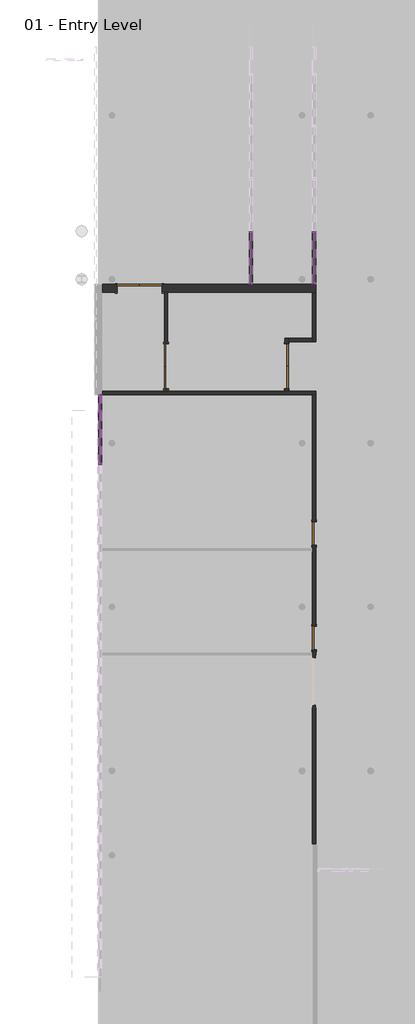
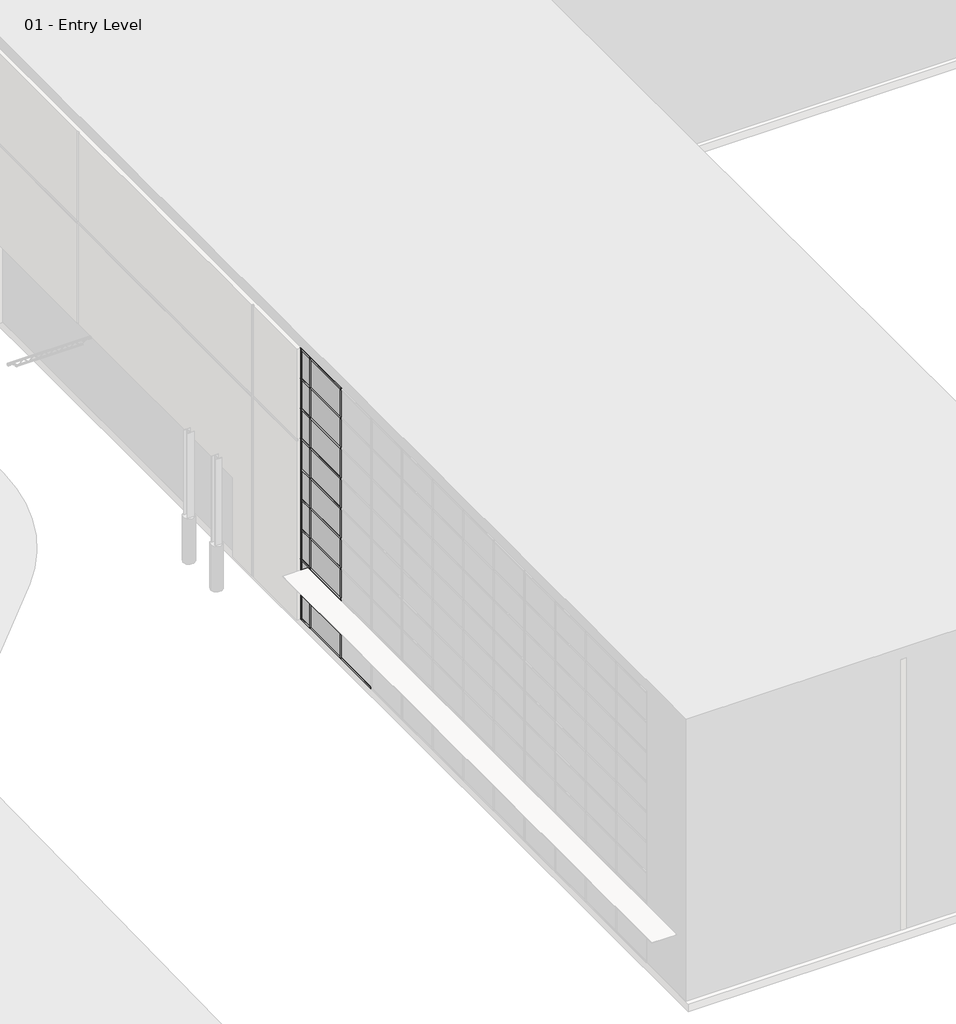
# One storey, part 12 of 34: 74 members, 24 plates, 7 walls, 5 doors.
"""IFC4 building model written with IfcOpenShell, lengths in millimetres."""

from ifc_helpers import new_model, si_unit, frame, origin, place, context, project, spatial, polyline, outline, extrude, faceted_brep, transform, mapped, element, save
from components import door_07ba55ef, door_bdee7c2d, door_a3eb833a, member_2b49869a, member_75074519, member_18e22e2d, member_9193c932, member_391b434c, member_9e90ae50, member_4f18b2ac, member_7a85b04f, member_73c075c8, member_ece69ae7, member_5d67b9fc, member_c327c56d, member_ec52078f, member_cc8ff548, system_panel_glazed_ac179f57, system_panel_glazed_1b9d6098, system_panel_glazed_70da479d, system_panel_glazed_9419342d, system_panel_glazed_b3ddbf8e, system_panel_glazed_346f81d9, system_panel_glazed_d60e1f89, system_panel_solid_b376696c, system_panel_solid_77e8b053, system_panel_solid_89b132cb, system_panel_solid_f04240b3

model = new_model("IFC4")

# Units and contexts
model_context = context("Model", 3, world=origin())
ifc_project = project(units=[si_unit("LENGTHUNIT", "METRE", prefix="MILLI")], contexts=[model_context])

# Site, building, storey
site = spatial("IfcSite", under=ifc_project)
building = spatial("IfcBuilding", under=site)
storey = spatial("IfcBuildingStorey", under=building, Name="01 - Entry Level", Elevation=0.0)

# Doors
placement = place(None, origin())
door_shape = door_07ba55ef(model_context)
element("IfcDoor", 1, ObjectType="Double-Flush : 68\" x 84\"", at=placement, inside=storey, context=model_context, shape_type="MappedRepresentation", body=[
    mapped(door_shape, transform((2718.7207476, 26711.2, 0.0), x_axis=(0.0, 1.0, 0.0), y_axis=(-1.0, 0.0, 0.0), z_axis=(0.0, 0.0, 1.0))),
])
element("IfcDoor", 2, ObjectType="Double-Flush : 68\" x 84\"", at=placement, inside=storey, context=model_context, shape_type="MappedRepresentation", body=[
    mapped(door_shape, transform((7354.2207476, 26711.2, 0.0), x_axis=(0.0, -1.0, 0.0), y_axis=(1.0, 0.0, 0.0), z_axis=(0.0, 0.0, 1.0))),
])
door_2_shape = door_bdee7c2d(model_context)
element("IfcDoor", 3, ObjectType="Double-Flush : 68\" x 84\"", at=placement, inside=storey, context=model_context, shape_type="MappedRepresentation", body=[
    mapped(door_2_shape, transform((1702.7207476, 29709.9875, 0.0), x_axis=(1.0, 0.0, 0.0), y_axis=(0.0, 1.0, 0.0), z_axis=(0.0, 0.0, 1.0))),
])
door_3_shape = door_a3eb833a(model_context)
element("IfcDoor", 4, ObjectType="Single-Flush : 36\" x 84\"", at=placement, inside=storey, context=model_context, shape_type="MappedRepresentation", body=[
    mapped(door_3_shape, transform((8421.0207476, 20285.0, 0.0), x_axis=(0.0, -1.0, 0.0), y_axis=(1.0, 0.0, 0.0), z_axis=(0.0, 0.0, 1.0))),
])
element("IfcDoor", 5, ObjectType="Single-Flush : 36\" x 84\"", at=placement, inside=storey, context=model_context, shape_type="MappedRepresentation", body=[
    mapped(door_3_shape, transform((8421.0207476, 16271.8, 0.0), x_axis=(0.0, -1.0, 0.0), y_axis=(1.0, 0.0, 0.0), z_axis=(0.0, 0.0, 1.0))),
])

# Members
member_shape = member_2b49869a(model_context)
element("IfcMember", 6, ObjectType="Rectangular Mullion : 2.5\" x 5\" rectangular", at=placement, inside=storey, context=model_context, shape_type="MappedRepresentation", body=[
    mapped(member_shape, transform((178.7207476, 24984.0, 9753.6), x_axis=(0.0, -1.0, 0.0), y_axis=(-1.0, 0.0, 0.0), z_axis=(0.0, 0.0, -1.0))),
])
element("IfcMember", 7, ObjectType="Rectangular Mullion : 2.5\" x 5\" rectangular", at=placement, inside=storey, context=model_context, shape_type="MappedRepresentation", body=[
    mapped(member_shape, transform((178.7207476, 22952.0, 9753.6), x_axis=(0.0, -1.0, 0.0), y_axis=(-1.0, 0.0, 0.0), z_axis=(0.0, 0.0, -1.0))),
])
member_2_shape = member_75074519(model_context)
element("IfcMember", 8, ObjectType="Rectangular Mullion : 2.5\" x 5\" rectangular", at=placement, inside=storey, context=model_context, shape_type="MappedRepresentation", body=[
    mapped(member_2_shape, transform((178.7207476, 25631.7, 10972.8), x_axis=(0.0, 1.0, 0.0), y_axis=(-1.0, 0.0, 0.0), z_axis=(0.0, 0.0, 1.0))),
])
member_3_shape = member_18e22e2d(model_context)
element("IfcMember", 9, ObjectType="Rectangular Mullion : 2.5\" x 5\" rectangular", at=placement, inside=storey, context=model_context, shape_type="MappedRepresentation", body=[
    mapped(member_3_shape, transform((5982.6207476, 31895.975, 2438.4), x_axis=(0.0, 1.0, 0.0), y_axis=(1.0, 0.0, 0.0), z_axis=(0.0, 0.0, -1.0))),
])
element("IfcMember", 10, ObjectType="Rectangular Mullion : 2.5\" x 5\" rectangular", at=placement, inside=storey, context=model_context, shape_type="MappedRepresentation", body=[
    mapped(member_3_shape, transform((8421.0207476, 31895.975, 2438.4), x_axis=(0.0, 1.0, 0.0), y_axis=(1.0, 0.0, 0.0), z_axis=(0.0, 0.0, -1.0))),
])
member_4_shape = member_9193c932(model_context)
element("IfcMember", 11, ObjectType="Rectangular Mullion : 2.5\" x 5\" rectangular", at=placement, inside=storey, context=model_context, shape_type="MappedRepresentation", body=[
    mapped(member_4_shape, transform((5982.6207476, 29863.975, 3403.6), x_axis=(0.0, -1.0, 0.0), y_axis=(1.0, 0.0, 0.0), z_axis=(0.0, 0.0, 1.0))),
])
element("IfcMember", 12, ObjectType="Rectangular Mullion : 2.5\" x 5\" rectangular", at=placement, inside=storey, context=model_context, shape_type="MappedRepresentation", body=[
    mapped(member_4_shape, transform((8421.0207476, 29863.975, 3403.6), x_axis=(0.0, -1.0, 0.0), y_axis=(1.0, 0.0, 0.0), z_axis=(0.0, 0.0, 1.0))),
])
member_5_shape = member_391b434c(model_context)
element("IfcMember", 13, ObjectType="Rectangular Mullion : 2.5\" x 5\" rectangular", at=placement, inside=storey, context=model_context, shape_type="MappedRepresentation", body=[
    mapped(member_5_shape, transform((178.7207476, 22983.75, 10972.8), x_axis=(0.0, 0.0, 1.0), y_axis=(-1.0, 0.0, 0.0), z_axis=(0.0, -1.0, 0.0))),
])
element("IfcMember", 14, ObjectType="Rectangular Mullion : 2.5\" x 5\" rectangular", at=placement, inside=storey, context=model_context, shape_type="MappedRepresentation", body=[
    mapped(member_5_shape, transform((178.7207476, 24952.25, 0.0), x_axis=(0.0, 0.0, -1.0), y_axis=(-1.0, 0.0, 0.0), z_axis=(0.0, 1.0, 0.0))),
])
element("IfcMember", 15, ObjectType="Rectangular Mullion : 2.5\" x 5\" rectangular", at=placement, inside=storey, context=model_context, shape_type="MappedRepresentation", body=[
    mapped(member_5_shape, transform((178.7207476, 22920.25, 0.0), x_axis=(0.0, 0.0, -1.0), y_axis=(-1.0, 0.0, 0.0), z_axis=(0.0, 1.0, 0.0))),
])
member_6_shape = member_9e90ae50(model_context)
element("IfcMember", 16, ObjectType="Rectangular Mullion : 2.5\" x 5\" rectangular", at=placement, inside=storey, context=model_context, shape_type="MappedRepresentation", body=[
    mapped(member_6_shape, transform((178.7207476, 22983.75, 1219.2), x_axis=(0.0, 0.0, 1.0), y_axis=(-1.0, 0.0, 0.0), z_axis=(0.0, -1.0, 0.0))),
])
element("IfcMember", 17, ObjectType="Rectangular Mullion : 2.5\" x 5\" rectangular", at=placement, inside=storey, context=model_context, shape_type="MappedRepresentation", body=[
    mapped(member_6_shape, transform((178.7207476, 22983.75, 2438.4), x_axis=(0.0, 0.0, 1.0), y_axis=(-1.0, 0.0, 0.0), z_axis=(0.0, -1.0, 0.0))),
])
element("IfcMember", 18, ObjectType="Rectangular Mullion : 2.5\" x 5\" rectangular", at=placement, inside=storey, context=model_context, shape_type="MappedRepresentation", body=[
    mapped(member_6_shape, transform((178.7207476, 22983.75, 3657.6), x_axis=(0.0, 0.0, 1.0), y_axis=(-1.0, 0.0, 0.0), z_axis=(0.0, -1.0, 0.0))),
])
element("IfcMember", 19, ObjectType="Rectangular Mullion : 2.5\" x 5\" rectangular", at=placement, inside=storey, context=model_context, shape_type="MappedRepresentation", body=[
    mapped(member_6_shape, transform((178.7207476, 22983.75, 4876.8), x_axis=(0.0, 0.0, 1.0), y_axis=(-1.0, 0.0, 0.0), z_axis=(0.0, -1.0, 0.0))),
])
element("IfcMember", 20, ObjectType="Rectangular Mullion : 2.5\" x 5\" rectangular", at=placement, inside=storey, context=model_context, shape_type="MappedRepresentation", body=[
    mapped(member_6_shape, transform((178.7207476, 22983.75, 6096.0), x_axis=(0.0, 0.0, 1.0), y_axis=(-1.0, 0.0, 0.0), z_axis=(0.0, -1.0, 0.0))),
])
element("IfcMember", 21, ObjectType="Rectangular Mullion : 2.5\" x 5\" rectangular", at=placement, inside=storey, context=model_context, shape_type="MappedRepresentation", body=[
    mapped(member_6_shape, transform((178.7207476, 22983.75, 7315.2), x_axis=(0.0, 0.0, 1.0), y_axis=(-1.0, 0.0, 0.0), z_axis=(0.0, -1.0, 0.0))),
])
element("IfcMember", 22, ObjectType="Rectangular Mullion : 2.5\" x 5\" rectangular", at=placement, inside=storey, context=model_context, shape_type="MappedRepresentation", body=[
    mapped(member_6_shape, transform((178.7207476, 22983.75, 8534.4), x_axis=(0.0, 0.0, 1.0), y_axis=(-1.0, 0.0, 0.0), z_axis=(0.0, -1.0, 0.0))),
])
element("IfcMember", 23, ObjectType="Rectangular Mullion : 2.5\" x 5\" rectangular", at=placement, inside=storey, context=model_context, shape_type="MappedRepresentation", body=[
    mapped(member_6_shape, transform((178.7207476, 22983.75, 9753.6), x_axis=(0.0, 0.0, 1.0), y_axis=(-1.0, 0.0, 0.0), z_axis=(0.0, -1.0, 0.0))),
])
element("IfcMember", 24, ObjectType="Rectangular Mullion : 2.5\" x 5\" rectangular", at=placement, inside=storey, context=model_context, shape_type="MappedRepresentation", body=[
    mapped(member_shape, transform((178.7207476, 24984.0, 0.0), x_axis=(0.0, -1.0, 0.0), y_axis=(-1.0, 0.0, 0.0), z_axis=(0.0, 0.0, -1.0))),
])
element("IfcMember", 25, ObjectType="Rectangular Mullion : 2.5\" x 5\" rectangular", at=placement, inside=storey, context=model_context, shape_type="MappedRepresentation", body=[
    mapped(member_shape, transform((178.7207476, 22952.0, 0.0), x_axis=(0.0, -1.0, 0.0), y_axis=(-1.0, 0.0, 0.0), z_axis=(0.0, 0.0, -1.0))),
])
element("IfcMember", 26, ObjectType="Rectangular Mullion : 2.5\" x 5\" rectangular", at=placement, inside=storey, context=model_context, shape_type="MappedRepresentation", body=[
    mapped(member_shape, transform((178.7207476, 24984.0, 1219.2), x_axis=(0.0, -1.0, 0.0), y_axis=(-1.0, 0.0, 0.0), z_axis=(0.0, 0.0, -1.0))),
])
element("IfcMember", 27, ObjectType="Rectangular Mullion : 2.5\" x 5\" rectangular", at=placement, inside=storey, context=model_context, shape_type="MappedRepresentation", body=[
    mapped(member_shape, transform((178.7207476, 22952.0, 1219.2), x_axis=(0.0, -1.0, 0.0), y_axis=(-1.0, 0.0, 0.0), z_axis=(0.0, 0.0, -1.0))),
])
element("IfcMember", 28, ObjectType="Rectangular Mullion : 2.5\" x 5\" rectangular", at=placement, inside=storey, context=model_context, shape_type="MappedRepresentation", body=[
    mapped(member_shape, transform((178.7207476, 24984.0, 2438.4), x_axis=(0.0, -1.0, 0.0), y_axis=(-1.0, 0.0, 0.0), z_axis=(0.0, 0.0, -1.0))),
])
element("IfcMember", 29, ObjectType="Rectangular Mullion : 2.5\" x 5\" rectangular", at=placement, inside=storey, context=model_context, shape_type="MappedRepresentation", body=[
    mapped(member_shape, transform((178.7207476, 22952.0, 2438.4), x_axis=(0.0, -1.0, 0.0), y_axis=(-1.0, 0.0, 0.0), z_axis=(0.0, 0.0, -1.0))),
])
element("IfcMember", 30, ObjectType="Rectangular Mullion : 2.5\" x 5\" rectangular", at=placement, inside=storey, context=model_context, shape_type="MappedRepresentation", body=[
    mapped(member_shape, transform((178.7207476, 24984.0, 3657.6), x_axis=(0.0, -1.0, 0.0), y_axis=(-1.0, 0.0, 0.0), z_axis=(0.0, 0.0, -1.0))),
])
element("IfcMember", 31, ObjectType="Rectangular Mullion : 2.5\" x 5\" rectangular", at=placement, inside=storey, context=model_context, shape_type="MappedRepresentation", body=[
    mapped(member_shape, transform((178.7207476, 22952.0, 3657.6), x_axis=(0.0, -1.0, 0.0), y_axis=(-1.0, 0.0, 0.0), z_axis=(0.0, 0.0, -1.0))),
])
element("IfcMember", 32, ObjectType="Rectangular Mullion : 2.5\" x 5\" rectangular", at=placement, inside=storey, context=model_context, shape_type="MappedRepresentation", body=[
    mapped(member_shape, transform((178.7207476, 24984.0, 4876.8), x_axis=(0.0, -1.0, 0.0), y_axis=(-1.0, 0.0, 0.0), z_axis=(0.0, 0.0, -1.0))),
])
element("IfcMember", 33, ObjectType="Rectangular Mullion : 2.5\" x 5\" rectangular", at=placement, inside=storey, context=model_context, shape_type="MappedRepresentation", body=[
    mapped(member_shape, transform((178.7207476, 22952.0, 4876.8), x_axis=(0.0, -1.0, 0.0), y_axis=(-1.0, 0.0, 0.0), z_axis=(0.0, 0.0, -1.0))),
])
element("IfcMember", 34, ObjectType="Rectangular Mullion : 2.5\" x 5\" rectangular", at=placement, inside=storey, context=model_context, shape_type="MappedRepresentation", body=[
    mapped(member_shape, transform((178.7207476, 24984.0, 6096.0), x_axis=(0.0, -1.0, 0.0), y_axis=(-1.0, 0.0, 0.0), z_axis=(0.0, 0.0, -1.0))),
])
element("IfcMember", 35, ObjectType="Rectangular Mullion : 2.5\" x 5\" rectangular", at=placement, inside=storey, context=model_context, shape_type="MappedRepresentation", body=[
    mapped(member_shape, transform((178.7207476, 22952.0, 6096.0), x_axis=(0.0, -1.0, 0.0), y_axis=(-1.0, 0.0, 0.0), z_axis=(0.0, 0.0, -1.0))),
])
element("IfcMember", 36, ObjectType="Rectangular Mullion : 2.5\" x 5\" rectangular", at=placement, inside=storey, context=model_context, shape_type="MappedRepresentation", body=[
    mapped(member_shape, transform((178.7207476, 24984.0, 7315.2), x_axis=(0.0, -1.0, 0.0), y_axis=(-1.0, 0.0, 0.0), z_axis=(0.0, 0.0, -1.0))),
])
element("IfcMember", 37, ObjectType="Rectangular Mullion : 2.5\" x 5\" rectangular", at=placement, inside=storey, context=model_context, shape_type="MappedRepresentation", body=[
    mapped(member_shape, transform((178.7207476, 22952.0, 7315.2), x_axis=(0.0, -1.0, 0.0), y_axis=(-1.0, 0.0, 0.0), z_axis=(0.0, 0.0, -1.0))),
])
element("IfcMember", 38, ObjectType="Rectangular Mullion : 2.5\" x 5\" rectangular", at=placement, inside=storey, context=model_context, shape_type="MappedRepresentation", body=[
    mapped(member_shape, transform((178.7207476, 24984.0, 8534.4), x_axis=(0.0, -1.0, 0.0), y_axis=(-1.0, 0.0, 0.0), z_axis=(0.0, 0.0, -1.0))),
])
element("IfcMember", 39, ObjectType="Rectangular Mullion : 2.5\" x 5\" rectangular", at=placement, inside=storey, context=model_context, shape_type="MappedRepresentation", body=[
    mapped(member_shape, transform((178.7207476, 22952.0, 8534.4), x_axis=(0.0, -1.0, 0.0), y_axis=(-1.0, 0.0, 0.0), z_axis=(0.0, 0.0, -1.0))),
])
member_7_shape = member_4f18b2ac(model_context)
element("IfcMember", 40, ObjectType="Rectangular Mullion : 2.5\" x 5\" rectangular", at=placement, inside=storey, context=model_context, shape_type="MappedRepresentation", body=[
    mapped(member_7_shape, transform((5982.6207476, 29927.475, 0.0), x_axis=(0.0, 0.0, -1.0), y_axis=(1.0, 0.0, 0.0), z_axis=(0.0, -1.0, 0.0))),
])
element("IfcMember", 41, ObjectType="Rectangular Mullion : 2.5\" x 5\" rectangular", at=placement, inside=storey, context=model_context, shape_type="MappedRepresentation", body=[
    mapped(member_7_shape, transform((8421.0207476, 29927.475, 0.0), x_axis=(0.0, 0.0, -1.0), y_axis=(1.0, 0.0, 0.0), z_axis=(0.0, -1.0, 0.0))),
])
element("IfcMember", 42, ObjectType="Rectangular Mullion : 2.5\" x 5\" rectangular", at=placement, inside=storey, context=model_context, shape_type="MappedRepresentation", body=[
    mapped(member_7_shape, transform((5982.6207476, 31864.225, 3403.6), x_axis=(0.0, 0.0, 1.0), y_axis=(1.0, 0.0, 0.0), z_axis=(0.0, 1.0, 0.0))),
])
element("IfcMember", 43, ObjectType="Rectangular Mullion : 2.5\" x 5\" rectangular", at=placement, inside=storey, context=model_context, shape_type="MappedRepresentation", body=[
    mapped(member_7_shape, transform((8421.0207476, 31864.225, 3403.6), x_axis=(0.0, 0.0, 1.0), y_axis=(1.0, 0.0, 0.0), z_axis=(0.0, 1.0, 0.0))),
])
element("IfcMember", 44, ObjectType="Rectangular Mullion : 2.5\" x 5\" rectangular", at=placement, inside=storey, context=model_context, shape_type="MappedRepresentation", body=[
    mapped(member_5_shape, transform((5982.6207476, 31927.725, 0.0), x_axis=(0.0, 0.0, -1.0), y_axis=(1.0, 0.0, 0.0), z_axis=(0.0, -1.0, 0.0))),
])
element("IfcMember", 45, ObjectType="Rectangular Mullion : 2.5\" x 5\" rectangular", at=placement, inside=storey, context=model_context, shape_type="MappedRepresentation", body=[
    mapped(member_5_shape, transform((8421.0207476, 31927.725, 0.0), x_axis=(0.0, 0.0, -1.0), y_axis=(1.0, 0.0, 0.0), z_axis=(0.0, -1.0, 0.0))),
])
member_8_shape = member_7a85b04f(model_context)
element("IfcMember", 46, ObjectType="Rectangular Mullion : 2.5\" x 5\" rectangular", at=placement, inside=storey, context=model_context, shape_type="MappedRepresentation", body=[
    mapped(member_8_shape, transform((5982.6207476, 31864.225, 1219.2), x_axis=(0.0, 0.0, 1.0), y_axis=(1.0, 0.0, 0.0), z_axis=(0.0, 1.0, 0.0))),
])
element("IfcMember", 47, ObjectType="Rectangular Mullion : 2.5\" x 5\" rectangular", at=placement, inside=storey, context=model_context, shape_type="MappedRepresentation", body=[
    mapped(member_8_shape, transform((5982.6207476, 31864.225, 2438.4), x_axis=(0.0, 0.0, 1.0), y_axis=(1.0, 0.0, 0.0), z_axis=(0.0, 1.0, 0.0))),
])
element("IfcMember", 48, ObjectType="Rectangular Mullion : 2.5\" x 5\" rectangular", at=placement, inside=storey, context=model_context, shape_type="MappedRepresentation", body=[
    mapped(member_8_shape, transform((8421.0207476, 31864.225, 1219.2), x_axis=(0.0, 0.0, 1.0), y_axis=(1.0, 0.0, 0.0), z_axis=(0.0, 1.0, 0.0))),
])
element("IfcMember", 49, ObjectType="Rectangular Mullion : 2.5\" x 5\" rectangular", at=placement, inside=storey, context=model_context, shape_type="MappedRepresentation", body=[
    mapped(member_8_shape, transform((8421.0207476, 31864.225, 2438.4), x_axis=(0.0, 0.0, 1.0), y_axis=(1.0, 0.0, 0.0), z_axis=(0.0, 1.0, 0.0))),
])
element("IfcMember", 50, ObjectType="Rectangular Mullion : 2.5\" x 5\" rectangular", at=placement, inside=storey, context=model_context, shape_type="MappedRepresentation", body=[
    mapped(member_shape, transform((5982.6207476, 31895.975, 0.0), x_axis=(0.0, 1.0, 0.0), y_axis=(1.0, 0.0, 0.0), z_axis=(0.0, 0.0, -1.0))),
])
element("IfcMember", 51, ObjectType="Rectangular Mullion : 2.5\" x 5\" rectangular", at=placement, inside=storey, context=model_context, shape_type="MappedRepresentation", body=[
    mapped(member_shape, transform((8421.0207476, 31895.975, 0.0), x_axis=(0.0, 1.0, 0.0), y_axis=(1.0, 0.0, 0.0), z_axis=(0.0, 0.0, -1.0))),
])
element("IfcMember", 52, ObjectType="Rectangular Mullion : 2.5\" x 5\" rectangular", at=placement, inside=storey, context=model_context, shape_type="MappedRepresentation", body=[
    mapped(member_2_shape, transform((178.7207476, 25631.7, 1219.2), x_axis=(0.0, 1.0, 0.0), y_axis=(-1.0, 0.0, 0.0), z_axis=(0.0, 0.0, 1.0))),
])
element("IfcMember", 53, ObjectType="Rectangular Mullion : 2.5\" x 5\" rectangular", at=placement, inside=storey, context=model_context, shape_type="MappedRepresentation", body=[
    mapped(member_2_shape, transform((178.7207476, 25631.7, 2438.4), x_axis=(0.0, 1.0, 0.0), y_axis=(-1.0, 0.0, 0.0), z_axis=(0.0, 0.0, 1.0))),
])
element("IfcMember", 54, ObjectType="Rectangular Mullion : 2.5\" x 5\" rectangular", at=placement, inside=storey, context=model_context, shape_type="MappedRepresentation", body=[
    mapped(member_2_shape, transform((178.7207476, 25631.7, 3657.6), x_axis=(0.0, 1.0, 0.0), y_axis=(-1.0, 0.0, 0.0), z_axis=(0.0, 0.0, 1.0))),
])
element("IfcMember", 55, ObjectType="Rectangular Mullion : 2.5\" x 5\" rectangular", at=placement, inside=storey, context=model_context, shape_type="MappedRepresentation", body=[
    mapped(member_2_shape, transform((178.7207476, 25631.7, 4876.8), x_axis=(0.0, 1.0, 0.0), y_axis=(-1.0, 0.0, 0.0), z_axis=(0.0, 0.0, 1.0))),
])
element("IfcMember", 56, ObjectType="Rectangular Mullion : 2.5\" x 5\" rectangular", at=placement, inside=storey, context=model_context, shape_type="MappedRepresentation", body=[
    mapped(member_2_shape, transform((178.7207476, 25631.7, 6096.0), x_axis=(0.0, 1.0, 0.0), y_axis=(-1.0, 0.0, 0.0), z_axis=(0.0, 0.0, 1.0))),
])
element("IfcMember", 57, ObjectType="Rectangular Mullion : 2.5\" x 5\" rectangular", at=placement, inside=storey, context=model_context, shape_type="MappedRepresentation", body=[
    mapped(member_2_shape, transform((178.7207476, 25631.7, 7315.2), x_axis=(0.0, 1.0, 0.0), y_axis=(-1.0, 0.0, 0.0), z_axis=(0.0, 0.0, 1.0))),
])
element("IfcMember", 58, ObjectType="Rectangular Mullion : 2.5\" x 5\" rectangular", at=placement, inside=storey, context=model_context, shape_type="MappedRepresentation", body=[
    mapped(member_2_shape, transform((178.7207476, 25631.7, 8534.4), x_axis=(0.0, 1.0, 0.0), y_axis=(-1.0, 0.0, 0.0), z_axis=(0.0, 0.0, 1.0))),
])
element("IfcMember", 59, ObjectType="Rectangular Mullion : 2.5\" x 5\" rectangular", at=placement, inside=storey, context=model_context, shape_type="MappedRepresentation", body=[
    mapped(member_2_shape, transform((178.7207476, 25631.7, 9753.6), x_axis=(0.0, 1.0, 0.0), y_axis=(-1.0, 0.0, 0.0), z_axis=(0.0, 0.0, 1.0))),
])
element("IfcMember", 60, ObjectType="Rectangular Mullion : 2.5\" x 5\" rectangular", at=placement, inside=storey, context=model_context, shape_type="MappedRepresentation", body=[
    mapped(member_2_shape, transform((5982.6207476, 29863.975, 1219.2), x_axis=(0.0, -1.0, 0.0), y_axis=(1.0, 0.0, 0.0), z_axis=(0.0, 0.0, 1.0))),
])
element("IfcMember", 61, ObjectType="Rectangular Mullion : 2.5\" x 5\" rectangular", at=placement, inside=storey, context=model_context, shape_type="MappedRepresentation", body=[
    mapped(member_2_shape, transform((8421.0207476, 29863.975, 1219.2), x_axis=(0.0, -1.0, 0.0), y_axis=(1.0, 0.0, 0.0), z_axis=(0.0, 0.0, 1.0))),
])
member_9_shape = member_73c075c8(model_context)
element("IfcMember", 62, ObjectType="Rectangular Mullion : 2.5\" x 5\" rectangular", at=placement, inside=storey, context=model_context, shape_type="MappedRepresentation", body=[
    mapped(member_9_shape, transform((178.7207476, 25568.2, 0.0), x_axis=(0.0, 0.0, -1.0), y_axis=(-1.0, 0.0, 0.0), z_axis=(0.0, 1.0, 0.0))),
])
element("IfcMember", 63, ObjectType="Rectangular Mullion : 2.5\" x 5\" rectangular", at=placement, inside=storey, context=model_context, shape_type="MappedRepresentation", body=[
    mapped(member_9_shape, transform((178.7207476, 25015.75, 10972.8), x_axis=(0.0, 0.0, 1.0), y_axis=(-1.0, 0.0, 0.0), z_axis=(0.0, -1.0, 0.0))),
])
member_10_shape = member_ece69ae7(model_context)
element("IfcMember", 64, ObjectType="Rectangular Mullion : 2.5\" x 5\" rectangular", at=placement, inside=storey, context=model_context, shape_type="MappedRepresentation", body=[
    mapped(member_10_shape, transform((178.7207476, 25015.75, 1219.2), x_axis=(0.0, 0.0, 1.0), y_axis=(-1.0, 0.0, 0.0), z_axis=(0.0, -1.0, 0.0))),
])
element("IfcMember", 65, ObjectType="Rectangular Mullion : 2.5\" x 5\" rectangular", at=placement, inside=storey, context=model_context, shape_type="MappedRepresentation", body=[
    mapped(member_10_shape, transform((178.7207476, 25015.75, 2438.4), x_axis=(0.0, 0.0, 1.0), y_axis=(-1.0, 0.0, 0.0), z_axis=(0.0, -1.0, 0.0))),
])
element("IfcMember", 66, ObjectType="Rectangular Mullion : 2.5\" x 5\" rectangular", at=placement, inside=storey, context=model_context, shape_type="MappedRepresentation", body=[
    mapped(member_10_shape, transform((178.7207476, 25015.75, 3657.6), x_axis=(0.0, 0.0, 1.0), y_axis=(-1.0, 0.0, 0.0), z_axis=(0.0, -1.0, 0.0))),
])
element("IfcMember", 67, ObjectType="Rectangular Mullion : 2.5\" x 5\" rectangular", at=placement, inside=storey, context=model_context, shape_type="MappedRepresentation", body=[
    mapped(member_10_shape, transform((178.7207476, 25015.75, 4876.8), x_axis=(0.0, 0.0, 1.0), y_axis=(-1.0, 0.0, 0.0), z_axis=(0.0, -1.0, 0.0))),
])
element("IfcMember", 68, ObjectType="Rectangular Mullion : 2.5\" x 5\" rectangular", at=placement, inside=storey, context=model_context, shape_type="MappedRepresentation", body=[
    mapped(member_10_shape, transform((178.7207476, 25015.75, 6096.0), x_axis=(0.0, 0.0, 1.0), y_axis=(-1.0, 0.0, 0.0), z_axis=(0.0, -1.0, 0.0))),
])
element("IfcMember", 69, ObjectType="Rectangular Mullion : 2.5\" x 5\" rectangular", at=placement, inside=storey, context=model_context, shape_type="MappedRepresentation", body=[
    mapped(member_10_shape, transform((178.7207476, 25015.75, 7315.2), x_axis=(0.0, 0.0, 1.0), y_axis=(-1.0, 0.0, 0.0), z_axis=(0.0, -1.0, 0.0))),
])
element("IfcMember", 70, ObjectType="Rectangular Mullion : 2.5\" x 5\" rectangular", at=placement, inside=storey, context=model_context, shape_type="MappedRepresentation", body=[
    mapped(member_10_shape, transform((178.7207476, 25015.75, 8534.4), x_axis=(0.0, 0.0, 1.0), y_axis=(-1.0, 0.0, 0.0), z_axis=(0.0, -1.0, 0.0))),
])
element("IfcMember", 71, ObjectType="Rectangular Mullion : 2.5\" x 5\" rectangular", at=placement, inside=storey, context=model_context, shape_type="MappedRepresentation", body=[
    mapped(member_10_shape, transform((178.7207476, 25015.75, 9753.6), x_axis=(0.0, 0.0, 1.0), y_axis=(-1.0, 0.0, 0.0), z_axis=(0.0, -1.0, 0.0))),
])
member_11_shape = member_5d67b9fc(model_context)
element("IfcMember", 72, ObjectType="Rectangular Mullion : 2.5\" x 5\" rectangular", at=placement, inside=storey, context=model_context, shape_type="MappedRepresentation", body=[
    mapped(member_11_shape, transform((5982.6207476, 31895.975, 2165.35), x_axis=(0.0, 1.0, 0.0), y_axis=(1.0, 0.0, 0.0), z_axis=(0.0, 0.0, -1.0))),
])
element("IfcMember", 73, ObjectType="Rectangular Mullion : 2.5\" x 5\" rectangular", at=placement, inside=storey, context=model_context, shape_type="MappedRepresentation", body=[
    mapped(member_11_shape, transform((8421.0207476, 31895.975, 2165.35), x_axis=(0.0, 1.0, 0.0), y_axis=(1.0, 0.0, 0.0), z_axis=(0.0, 0.0, -1.0))),
])
member_12_shape = member_c327c56d(model_context)
element("IfcMember", 74, ObjectType="Rectangular Mullion : 2.5\" x 5\" rectangular", at=placement, inside=storey, context=model_context, shape_type="MappedRepresentation", body=[
    mapped(member_12_shape, transform((5982.6207476, 29863.975, 2438.4), x_axis=(0.0, -1.0, 0.0), y_axis=(1.0, 0.0, 0.0), z_axis=(0.0, 0.0, 1.0))),
])
element("IfcMember", 75, ObjectType="Rectangular Mullion : 2.5\" x 5\" rectangular", at=placement, inside=storey, context=model_context, shape_type="MappedRepresentation", body=[
    mapped(member_12_shape, transform((8421.0207476, 29863.975, 2438.4), x_axis=(0.0, -1.0, 0.0), y_axis=(1.0, 0.0, 0.0), z_axis=(0.0, 0.0, 1.0))),
])
member_13_shape = member_ec52078f(model_context)
element("IfcMember", 76, ObjectType="Rectangular Mullion : 2.5\" x 5\" rectangular", at=placement, inside=storey, context=model_context, shape_type="MappedRepresentation", body=[
    mapped(member_13_shape, transform((5982.6207476, 31895.975, 1219.2), x_axis=(0.0, 1.0, 0.0), y_axis=(1.0, 0.0, 0.0), z_axis=(0.0, 0.0, -1.0))),
])
element("IfcMember", 77, ObjectType="Rectangular Mullion : 2.5\" x 5\" rectangular", at=placement, inside=storey, context=model_context, shape_type="MappedRepresentation", body=[
    mapped(member_13_shape, transform((8421.0207476, 31895.975, 1219.2), x_axis=(0.0, 1.0, 0.0), y_axis=(1.0, 0.0, 0.0), z_axis=(0.0, 0.0, -1.0))),
])
member_14_shape = member_cc8ff548(model_context)
element("IfcMember", 78, ObjectType="Rectangular Mullion : 2.5\" x 5\" rectangular", at=placement, inside=storey, context=model_context, shape_type="MappedRepresentation", body=[
    mapped(member_14_shape, transform((5982.6207476, 29863.975, 2165.35), x_axis=(0.0, -1.0, 0.0), y_axis=(1.0, 0.0, 0.0), z_axis=(0.0, 0.0, 1.0))),
])
element("IfcMember", 79, ObjectType="Rectangular Mullion : 2.5\" x 5\" rectangular", at=placement, inside=storey, context=model_context, shape_type="MappedRepresentation", body=[
    mapped(member_14_shape, transform((8421.0207476, 29863.975, 2165.35), x_axis=(0.0, -1.0, 0.0), y_axis=(1.0, 0.0, 0.0), z_axis=(0.0, 0.0, 1.0))),
])

# Plates
system_panel_glazed_shape = system_panel_glazed_ac179f57(model_context)
element("IfcPlate", 80, ObjectType="System Panel : Glazed", at=placement, inside=storey, context=model_context, shape_type="MappedRepresentation", body=[
    mapped(system_panel_glazed_shape, transform((5982.6207476, 30895.85, 63.5), x_axis=(0.0, 1.0, 0.0), y_axis=(-1.0, 0.0, 0.0), z_axis=(0.0, 0.0, 1.0))),
])
element("IfcPlate", 81, ObjectType="System Panel : Glazed", at=placement, inside=storey, context=model_context, shape_type="MappedRepresentation", body=[
    mapped(system_panel_glazed_shape, transform((8421.0207476, 30895.85, 63.5), x_axis=(0.0, 1.0, 0.0), y_axis=(-1.0, 0.0, 0.0), z_axis=(0.0, 0.0, 1.0))),
])
system_panel_glazed_2_shape = system_panel_glazed_1b9d6098(model_context)
element("IfcPlate", 82, ObjectType="System Panel : Glazed", at=placement, inside=storey, context=model_context, shape_type="MappedRepresentation", body=[
    mapped(system_panel_glazed_2_shape, transform((178.7207476, 23968.0, 63.5), x_axis=(0.0, -1.0, 0.0), y_axis=(1.0, 0.0, 0.0), z_axis=(0.0, 0.0, 1.0))),
])
system_panel_glazed_3_shape = system_panel_glazed_70da479d(model_context)
element("IfcPlate", 83, ObjectType="System Panel : Glazed", at=placement, inside=storey, context=model_context, shape_type="MappedRepresentation", body=[
    mapped(system_panel_glazed_3_shape, transform((178.7207476, 23968.0, 1250.95), x_axis=(0.0, -1.0, 0.0), y_axis=(1.0, 0.0, 0.0), z_axis=(0.0, 0.0, 1.0))),
])
element("IfcPlate", 84, ObjectType="System Panel : Glazed", at=placement, inside=storey, context=model_context, shape_type="MappedRepresentation", body=[
    mapped(system_panel_glazed_3_shape, transform((178.7207476, 23968.0, 3689.35), x_axis=(0.0, -1.0, 0.0), y_axis=(1.0, 0.0, 0.0), z_axis=(0.0, 0.0, 1.0))),
])
element("IfcPlate", 85, ObjectType="System Panel : Glazed", at=placement, inside=storey, context=model_context, shape_type="MappedRepresentation", body=[
    mapped(system_panel_glazed_3_shape, transform((178.7207476, 23968.0, 4908.55), x_axis=(0.0, -1.0, 0.0), y_axis=(1.0, 0.0, 0.0), z_axis=(0.0, 0.0, 1.0))),
])
element("IfcPlate", 86, ObjectType="System Panel : Glazed", at=placement, inside=storey, context=model_context, shape_type="MappedRepresentation", body=[
    mapped(system_panel_glazed_3_shape, transform((178.7207476, 23968.0, 7346.95), x_axis=(0.0, -1.0, 0.0), y_axis=(1.0, 0.0, 0.0), z_axis=(0.0, 0.0, 1.0))),
])
element("IfcPlate", 87, ObjectType="System Panel : Glazed", at=placement, inside=storey, context=model_context, shape_type="MappedRepresentation", body=[
    mapped(system_panel_glazed_3_shape, transform((178.7207476, 23968.0, 8566.15), x_axis=(0.0, -1.0, 0.0), y_axis=(1.0, 0.0, 0.0), z_axis=(0.0, 0.0, 1.0))),
])
system_panel_glazed_4_shape = system_panel_glazed_9419342d(model_context)
element("IfcPlate", 88, ObjectType="System Panel : Glazed", at=placement, inside=storey, context=model_context, shape_type="MappedRepresentation", body=[
    mapped(system_panel_glazed_4_shape, transform((5982.6207476, 30895.85, 2470.15), x_axis=(0.0, 1.0, 0.0), y_axis=(-1.0, 0.0, 0.0), z_axis=(0.0, 0.0, 1.0))),
])
element("IfcPlate", 89, ObjectType="System Panel : Glazed", at=placement, inside=storey, context=model_context, shape_type="MappedRepresentation", body=[
    mapped(system_panel_glazed_4_shape, transform((8421.0207476, 30895.85, 2470.15), x_axis=(0.0, 1.0, 0.0), y_axis=(-1.0, 0.0, 0.0), z_axis=(0.0, 0.0, 1.0))),
])
system_panel_glazed_5_shape = system_panel_glazed_b3ddbf8e(model_context)
element("IfcPlate", 90, ObjectType="System Panel : Glazed", at=placement, inside=storey, context=model_context, shape_type="MappedRepresentation", body=[
    mapped(system_panel_glazed_5_shape, transform((178.7207476, 25291.975, 63.5), x_axis=(0.0, -1.0, 0.0), y_axis=(1.0, 0.0, 0.0), z_axis=(0.0, 0.0, 1.0))),
])
system_panel_glazed_6_shape = system_panel_glazed_346f81d9(model_context)
element("IfcPlate", 91, ObjectType="System Panel : Glazed", at=placement, inside=storey, context=model_context, shape_type="MappedRepresentation", body=[
    mapped(system_panel_glazed_6_shape, transform((178.7207476, 25291.975, 1250.95), x_axis=(0.0, -1.0, 0.0), y_axis=(1.0, 0.0, 0.0), z_axis=(0.0, 0.0, 1.0))),
])
element("IfcPlate", 92, ObjectType="System Panel : Glazed", at=placement, inside=storey, context=model_context, shape_type="MappedRepresentation", body=[
    mapped(system_panel_glazed_6_shape, transform((178.7207476, 25291.975, 3689.35), x_axis=(0.0, -1.0, 0.0), y_axis=(1.0, 0.0, 0.0), z_axis=(0.0, 0.0, 1.0))),
])
element("IfcPlate", 93, ObjectType="System Panel : Glazed", at=placement, inside=storey, context=model_context, shape_type="MappedRepresentation", body=[
    mapped(system_panel_glazed_6_shape, transform((178.7207476, 25291.975, 4908.55), x_axis=(0.0, -1.0, 0.0), y_axis=(1.0, 0.0, 0.0), z_axis=(0.0, 0.0, 1.0))),
])
element("IfcPlate", 94, ObjectType="System Panel : Glazed", at=placement, inside=storey, context=model_context, shape_type="MappedRepresentation", body=[
    mapped(system_panel_glazed_6_shape, transform((178.7207476, 25291.975, 7346.95), x_axis=(0.0, -1.0, 0.0), y_axis=(1.0, 0.0, 0.0), z_axis=(0.0, 0.0, 1.0))),
])
element("IfcPlate", 95, ObjectType="System Panel : Glazed", at=placement, inside=storey, context=model_context, shape_type="MappedRepresentation", body=[
    mapped(system_panel_glazed_6_shape, transform((178.7207476, 25291.975, 8566.15), x_axis=(0.0, -1.0, 0.0), y_axis=(1.0, 0.0, 0.0), z_axis=(0.0, 0.0, 1.0))),
])
system_panel_glazed_7_shape = system_panel_glazed_d60e1f89(model_context)
element("IfcPlate", 96, ObjectType="System Panel : Glazed", at=placement, inside=storey, context=model_context, shape_type="MappedRepresentation", body=[
    mapped(system_panel_glazed_7_shape, transform((5982.6207476, 30895.85, 1250.95), x_axis=(0.0, 1.0, 0.0), y_axis=(-1.0, 0.0, 0.0), z_axis=(0.0, 0.0, 1.0))),
])
element("IfcPlate", 97, ObjectType="System Panel : Glazed", at=placement, inside=storey, context=model_context, shape_type="MappedRepresentation", body=[
    mapped(system_panel_glazed_7_shape, transform((8421.0207476, 30895.85, 1250.95), x_axis=(0.0, 1.0, 0.0), y_axis=(-1.0, 0.0, 0.0), z_axis=(0.0, 0.0, 1.0))),
])
system_panel_solid_shape = system_panel_solid_b376696c(model_context)
element("IfcPlate", 98, ObjectType="System Panel : Solid", at=placement, inside=storey, context=model_context, shape_type="MappedRepresentation", body=[
    mapped(system_panel_solid_shape, transform((178.7207476, 23968.0, 9785.35), x_axis=(0.0, -1.0, 0.0), y_axis=(1.0, 0.0, 0.0), z_axis=(0.0, 0.0, 1.0))),
])
system_panel_solid_2_shape = system_panel_solid_77e8b053(model_context)
element("IfcPlate", 99, ObjectType="System Panel : Solid", at=placement, inside=storey, context=model_context, shape_type="MappedRepresentation", body=[
    mapped(system_panel_solid_2_shape, transform((178.7207476, 23968.0, 2470.15), x_axis=(0.0, -1.0, 0.0), y_axis=(1.0, 0.0, 0.0), z_axis=(0.0, 0.0, 1.0))),
])
element("IfcPlate", 100, ObjectType="System Panel : Solid", at=placement, inside=storey, context=model_context, shape_type="MappedRepresentation", body=[
    mapped(system_panel_solid_2_shape, transform((178.7207476, 23968.0, 6127.75), x_axis=(0.0, -1.0, 0.0), y_axis=(1.0, 0.0, 0.0), z_axis=(0.0, 0.0, 1.0))),
])
system_panel_solid_3_shape = system_panel_solid_89b132cb(model_context)
element("IfcPlate", 101, ObjectType="System Panel : Solid", at=placement, inside=storey, context=model_context, shape_type="MappedRepresentation", body=[
    mapped(system_panel_solid_3_shape, transform((178.7207476, 25291.975, 2470.15), x_axis=(0.0, -1.0, 0.0), y_axis=(1.0, 0.0, 0.0), z_axis=(0.0, 0.0, 1.0))),
])
element("IfcPlate", 102, ObjectType="System Panel : Solid", at=placement, inside=storey, context=model_context, shape_type="MappedRepresentation", body=[
    mapped(system_panel_solid_3_shape, transform((178.7207476, 25291.975, 6127.75), x_axis=(0.0, -1.0, 0.0), y_axis=(1.0, 0.0, 0.0), z_axis=(0.0, 0.0, 1.0))),
])
system_panel_solid_4_shape = system_panel_solid_f04240b3(model_context)
element("IfcPlate", 103, ObjectType="System Panel : Solid", at=placement, inside=storey, context=model_context, shape_type="MappedRepresentation", body=[
    mapped(system_panel_solid_4_shape, transform((178.7207476, 25291.975, 9785.35), x_axis=(0.0, -1.0, 0.0), y_axis=(1.0, 0.0, 0.0), z_axis=(0.0, 0.0, 1.0))),
])

# Walls
element("IfcWall", 104, ObjectType="Exterior - EIFS on CMU", at=placement, inside=storey, context=model_context, shape_type="Brep", body=[
    faceted_brep([(280.3207476, 29863.975, 3657.6), (8484.5207476, 29863.975, 3657.6), (8484.5207476, 29863.975, 0.0), (2566.3207476, 29863.975, 0.0), (2566.3207476, 29863.975, 2133.6), (839.1207476, 29863.975, 2133.6), (839.1207476, 29863.975, 0.0), (280.3207476, 29863.975, 0.0), (280.3207476, 29863.975, 3200.4), (8484.5207476, 29556.0, 3657.6), (280.3207476, 29556.0, 3657.6), (280.3207476, 29556.0, 0.0), (839.1207476, 29556.0, 0.0), (839.1207476, 29556.0, 2133.6), (2566.3207476, 29556.0, 2133.6), (2566.3207476, 29556.0, 0.0), (2655.2207476, 29556.0, 0.0), (2782.2207476, 29556.0, 0.0), (8357.5207476, 29556.0, 0.0), (8484.5207476, 29556.0, 0.0), (8484.5207476, 29556.0, 3403.6)], [[[0, 1, 2, 3, 4, 5, 6, 7, 8]], [[9, 10, 11, 12, 13, 14, 15, 16, 17, 18, 19, 20]], [[11, 7, 6, 12]], [[2, 19, 18, 17, 16, 15, 3]], [[1, 0, 10, 9]], [[0, 8, 7, 11, 10]], [[2, 1, 9, 20, 19]], [[14, 4, 3, 15]], [[4, 14, 13, 5]], [[5, 13, 12, 6]]]),
])
element("IfcWall", 105, ObjectType="Generic - 5\"", at=placement, inside=storey, context=model_context, shape_type="Brep", body=[
    faceted_brep([(8484.5207476, 25758.7, 0.0), (7417.7207476, 25758.7, 0.0), (7290.7207476, 25758.7, 0.0), (2782.2207476, 25758.7, 0.0), (2655.2207476, 25758.7, 0.0), (280.3207476, 25758.7, 0.0), (280.3207476, 25758.7, 3403.6), (2655.2207476, 25758.7, 3403.6), (2782.2207476, 25758.7, 3403.6), (8484.5207476, 25758.7, 3403.6), (8484.5207476, 25631.7, 0.0), (8484.5207476, 25631.7, 3403.6), (8357.5207476, 25631.7, 3403.6), (280.3207476, 25631.7, 3403.6), (280.3207476, 25631.7, 0.0), (8357.5207476, 25631.7, 0.0)], [[[0, 1, 2, 3, 4, 5, 6, 7, 8, 9]], [[10, 11, 12, 13, 14, 15]], [[5, 4, 3, 2, 1, 0, 10, 15, 14]], [[0, 9, 11, 10]], [[6, 5, 14, 13]], [[9, 8, 7, 6, 13, 12, 11]]]),
])
element("IfcWall", 106, ObjectType="Generic - 5\"", at=placement, inside=storey, context=model_context, shape_type="SweptSolid", body=[
    extrude(outline(polyline([(29556.0, 3403.6), (29556.0, 0.0), (27574.8, 0.0), (27574.8, 2133.6), (25847.6, 2133.6), (25847.6, 0.0), (25758.7, 0.0), (25758.7, 3403.6), (29556.0, 3403.6)])), frame((2655.2207476, 0.0, 0.0), z_axis=(1.0, 0.0, 0.0), x_axis=(0.0, 1.0, 0.0)), (0.0, 0.0, 1.0), 127.0),
])
element("IfcWall", 107, ObjectType="Generic - 5\"", at=placement, inside=storey, context=model_context, shape_type="Brep", body=[
    faceted_brep([(7417.7207476, 27790.7, 3657.6), (7417.7207476, 27663.7, 3657.6), (7417.7207476, 25758.7, 3657.6), (7417.7207476, 25758.7, 0.0), (7417.7207476, 25847.6, 0.0), (7417.7207476, 25847.6, 2133.6), (7417.7207476, 27574.8, 2133.6), (7417.7207476, 27574.8, 0.0), (7417.7207476, 27663.7, 0.0), (7417.7207476, 27790.7, 0.0), (7290.7207476, 25758.7, 3657.6), (7290.7207476, 27790.7, 3657.6), (7290.7207476, 27790.7, 0.0), (7290.7207476, 27574.8, 0.0), (7290.7207476, 27574.8, 2133.6), (7290.7207476, 25847.6, 2133.6), (7290.7207476, 25847.6, 0.0), (7290.7207476, 25758.7, 0.0)], [[[0, 1, 2, 3, 4, 5, 6, 7, 8, 9]], [[10, 11, 12, 13, 14, 15, 16, 17]], [[12, 9, 8, 7, 13]], [[3, 17, 16, 4]], [[2, 1, 0, 11, 10]], [[0, 9, 12, 11]], [[3, 2, 10, 17]], [[15, 5, 4, 16]], [[5, 15, 14, 6]], [[6, 14, 13, 7]]]),
])
element("IfcWall", 108, ObjectType="Generic - 5\"", at=placement, inside=storey, context=model_context, shape_type="Brep", body=[
    faceted_brep([(7417.7207476, 27663.7, 0.0), (8357.5207476, 27663.7, 0.0), (8357.5207476, 27663.7, 3403.6), (8357.5207476, 27663.7, 3657.6), (7417.7207476, 27663.7, 3657.6), (7417.7207476, 27790.7, 0.0), (7417.7207476, 27790.7, 3657.6), (8357.5207476, 27790.7, 3657.6), (8357.5207476, 27790.7, 0.0)], [[[0, 1, 2, 3, 4]], [[5, 6, 7, 8]], [[1, 0, 5, 8]], [[4, 3, 7, 6]], [[0, 4, 6, 5]], [[3, 2, 1, 8, 7]]]),
])
element("IfcWall", 109, ObjectType="Generic - 5\"", at=placement, inside=storey, context=model_context, shape_type="Brep", body=[
    faceted_brep([(8357.5207476, 8334.3, 0.0), (8357.5207476, 8334.3, 3403.6), (8357.5207476, 15598.7, 3403.6), (8357.5207476, 15725.7, 3403.6), (8357.5207476, 19611.9, 3403.6), (8357.5207476, 19738.9, 3403.6), (8357.5207476, 25631.7, 3403.6), (8357.5207476, 25631.7, 0.0), (8357.5207476, 20742.2, 0.0), (8357.5207476, 20742.2, 2133.6), (8357.5207476, 19827.8, 2133.6), (8357.5207476, 19827.8, 0.0), (8357.5207476, 19738.9, 0.0), (8357.5207476, 19611.9, 0.0), (8357.5207476, 16729.0, 0.0), (8357.5207476, 16729.0, 2133.6), (8357.5207476, 15814.6, 2133.6), (8357.5207476, 15814.6, 0.0), (8357.5207476, 15725.7, 0.0), (8357.5207476, 15598.7, 0.0), (8357.5207476, 15509.8, 0.0), (8357.5207476, 15509.8, 2133.6), (8357.5207476, 13681.0, 2133.6), (8357.5207476, 13681.0, 0.0), (8484.5207476, 8334.3, 3403.6), (8484.5207476, 8334.3, 0.0), (8484.5207476, 13681.0, 0.0), (8484.5207476, 13681.0, 2133.6), (8484.5207476, 15509.8, 2133.6), (8484.5207476, 15509.8, 0.0), (8484.5207476, 15814.6, 0.0), (8484.5207476, 15814.6, 2133.6), (8484.5207476, 16729.0, 2133.6), (8484.5207476, 16729.0, 0.0), (8484.5207476, 19827.8, 0.0), (8484.5207476, 19827.8, 2133.6), (8484.5207476, 20742.2, 2133.6), (8484.5207476, 20742.2, 0.0), (8484.5207476, 25631.7, 0.0), (8484.5207476, 25631.7, 3403.6)], [[[0, 1, 2, 3, 4, 5, 6, 7, 8, 9, 10, 11, 12, 13, 14, 15, 16, 17, 18, 19, 20, 21, 22, 23]], [[24, 25, 26, 27, 28, 29, 30, 31, 32, 33, 34, 35, 36, 37, 38, 39]], [[25, 0, 23, 26]], [[7, 38, 37, 8]], [[11, 34, 33, 14, 13, 12]], [[17, 30, 29, 20, 19, 18]], [[1, 0, 25, 24]], [[7, 6, 39, 38]], [[6, 5, 4, 3, 2, 1, 24, 39]], [[35, 34, 11, 10]], [[36, 35, 10, 9]], [[37, 36, 9, 8]], [[31, 30, 17, 16]], [[32, 31, 16, 15]], [[33, 32, 15, 14]], [[28, 21, 20, 29]], [[21, 28, 27, 22]], [[22, 27, 26, 23]]]),
])
element("IfcWall", 110, ObjectType="Generic - 5\"", at=placement, inside=storey, context=model_context, shape_type="Brep", body=[
    faceted_brep([(8357.5207476, 29556.0, 0.0), (8357.5207476, 27790.7, 0.0), (8357.5207476, 27663.7, 0.0), (8357.5207476, 27663.7, 3403.6), (8357.5207476, 29556.0, 3403.6), (8484.5207476, 29556.0, 0.0), (8484.5207476, 29556.0, 3403.6), (8484.5207476, 27663.7, 3403.6), (8484.5207476, 27663.7, 0.0)], [[[0, 1, 2, 3, 4]], [[5, 6, 7, 8]], [[2, 1, 0, 5, 8]], [[3, 2, 8, 7]], [[0, 4, 6, 5]], [[4, 3, 7, 6]]]),
])

save(model, "model.ifc")
